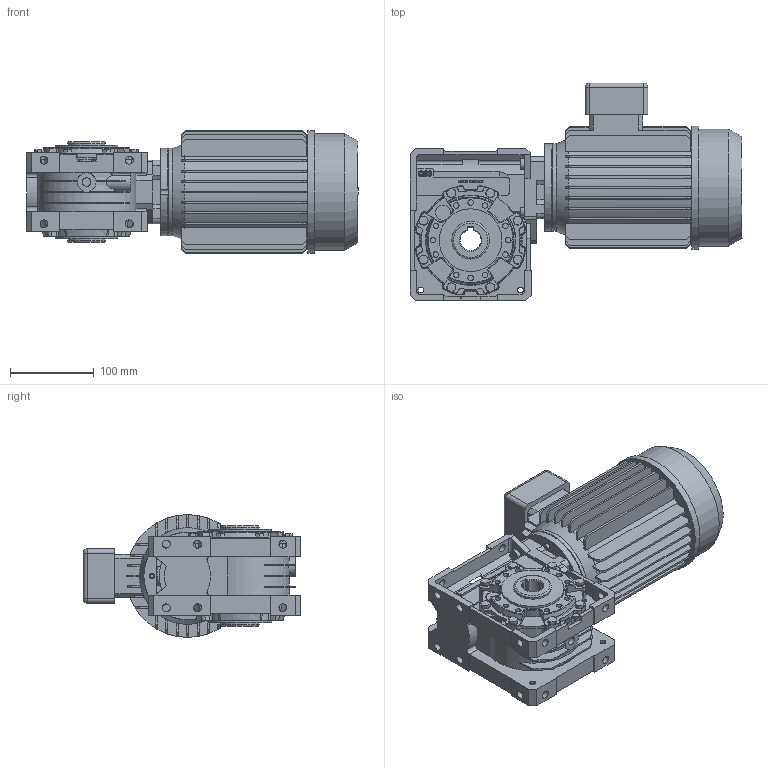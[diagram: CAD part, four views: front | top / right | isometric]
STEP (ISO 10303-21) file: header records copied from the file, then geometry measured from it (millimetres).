
FILE_DESCRIPTION( ( 'Unknown' ), '1' );
FILE_NAME( 'E:/services/configuratordownloads/customers/HYDROMEC/VSFQ/download/997D518A4A1BC0E0DB61CF2B9C8262/STEP/997D518A4A1BC0E0DB61CF2B9C8262.3d.stp', 'Unknown', ( 'Unknown' ), ( 'Unknown' ), 'PSStep 10.1', 'Unknown', ' ' );
FILE_SCHEMA( ( 'AUTOMOTIVE_DESIGN { 1 0 10303 214 1 1 1 1 }' ) );
Length unit declared in the file: millimetre
Products named in the file (1): Q638800
Bounding box: 397 x 260.5 x 147 mm (x, y, z)
Volume: 4908949.1 mm3; surface area: 488744.3 mm2
Topology: 1 solids, 15 shells, 1537 faces, 4013 edges, 2595 vertices
Faces by surface type: plane 992, cylinder 351, cone 53, torus 47, extrusion 46, bspline 44, sphere 4
Full cylindrical faces by diameter (mm): 4.2 x8, 4.917 x8, 6.647 x28, 6.8 x8, 7 x7, 9.5 x16, 10.2 x3, 22.5 x1, 34.5 x1, 35 x1, 45 x2, 47 x2, 70 x1, 75 x1, 105 x1, 115.261 x1, 140 x1, 147 x1
Entity records: 64281 total; most frequent: CARTESIAN_POINT 14608, ORIENTED_EDGE 7710, DIRECTION 7663, EDGE_CURVE 3855, AXIS2_PLACEMENT_3D 2601, VERTEX_POINT 2542, VECTOR 2461, LINE 2415
